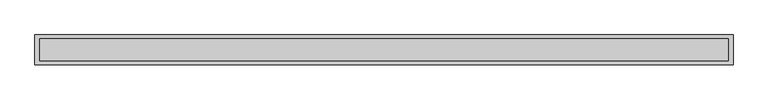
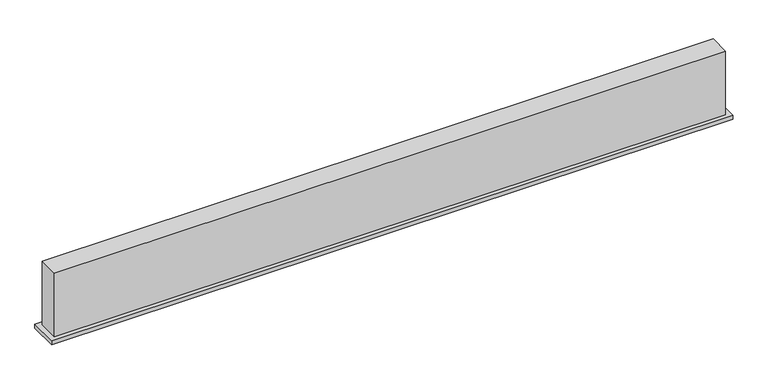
"""IFC4 building model written with IfcOpenShell, lengths in millimetres: air terminal geometry, 033_線状吹出口_BL : BL-S."""

import ifcopenshell
import ifcopenshell.guid

model = None  # the IFC model being written
_history = None  # IfcOwnerHistory: only IFC2X3 demands one
_inside = {}  # id of a spatial element -> (the spatial element, [elements in it])
_under = {}  # id of a project, library or spatial element -> (it, [spatial elements below it])
_declared = {}  # id of a project -> (the project, [libraries it declares])
_typed = {}  # id of a type object -> (the type object, [elements of that type])
_made_of = {}  # id of a material, layer set ... -> (it, [elements and type objects made of it])


def new_model(schema):
    """Start an empty IFC model of exactly this schema.

    Asked for "IFC4X3", IfcOpenShell would pick the latest addendum, in which some entities
    have other attributes; the version numbers below select the first issue.
    IFC2X3 requires an IfcOwnerHistory on every rooted entity: one is made here for all.
    """
    global model, _history
    if schema == "IFC4X3":
        model = ifcopenshell.file(schema_version=(4, 3, 0, 0))
    else:
        model = ifcopenshell.file(schema=schema)
    _inside.clear()
    _under.clear()
    _declared.clear()
    _typed.clear()
    _made_of.clear()
    _history = None
    if model.schema == "IFC2X3":
        org = make("IfcOrganization", Name="unknown")
        user = make(
            "IfcPersonAndOrganization",
            ThePerson=make("IfcPerson", FamilyName="unknown"),
            TheOrganization=org,
        )
        app = make(
            "IfcApplication",
            ApplicationDeveloper=org,
            Version="unknown",
            ApplicationFullName="unknown",
            ApplicationIdentifier="unknown",
        )
        _history = make(
            "IfcOwnerHistory",
            OwningUser=user,
            OwningApplication=app,
            ChangeAction="ADDED",
            CreationDate=0,
        )
    return model


def make(cls, **values):
    """One entity of the class cls with the attributes given. An attribute that is None is left unset."""
    return model.create_entity(
        cls, **{name: value for name, value in values.items() if value is not None}
    )


def rooted(cls, **values):
    """An entity with a GlobalId (a new one), such as an element, a storey or a relation."""
    return make(cls, GlobalId=ifcopenshell.guid.new(), OwnerHistory=_history, **values)


def si_unit(unit_type, name, prefix=None):
    """IfcSIUnit, for example si_unit("LENGTHUNIT", "METRE", prefix="MILLI")."""
    return make("IfcSIUnit", UnitType=unit_type, Prefix=prefix, Name=name)


def assignment(units):
    """IfcUnitAssignment: the units of a project."""
    return None if units is None else make("IfcUnitAssignment", Units=units)


def point(xyz):
    """IfcCartesianPoint."""
    return None if xyz is None else make("IfcCartesianPoint", Coordinates=xyz)


def direction(xyz):
    """IfcDirection."""
    return None if xyz is None else make("IfcDirection", DirectionRatios=xyz)


def frame(location, z_axis=None, x_axis=None):
    """IfcAxis2Placement3D, a coordinate frame: its origin and axes. An axis left out is left unset."""
    return make(
        "IfcAxis2Placement3D",
        Location=point(location),
        Axis=direction(z_axis),
        RefDirection=direction(x_axis),
    )


def origin():
    """The frame at (0, 0, 0) with its axes left unset."""
    return frame((0.0, 0.0, 0.0))


def origin_with_axes():
    """The frame at (0, 0, 0) with the z axis (0, 0, 1) and the x axis (1, 0, 0) written out."""
    return frame((0.0, 0.0, 0.0), z_axis=(0.0, 0.0, 1.0), x_axis=(1.0, 0.0, 0.0))


def place(relative_to, where):
    """IfcLocalPlacement: puts the frame where relative to a parent placement (None: the world)."""
    return make(
        "IfcLocalPlacement", PlacementRelTo=relative_to, RelativePlacement=where
    )


def context(
    kind, dimensions, precision=None, world=None, true_north=None, identifier=None
):
    """IfcGeometricRepresentationContext, for example the 3D "Model" context."""
    return make(
        "IfcGeometricRepresentationContext",
        ContextIdentifier=identifier,
        ContextType=kind,
        CoordinateSpaceDimension=dimensions,
        Precision=precision,
        WorldCoordinateSystem=world,
        TrueNorth=true_north,
    )


def project(units=None, contexts=None):
    """IfcProject with its units and contexts."""
    return rooted(
        "IfcProject",
        Name="project",
        RepresentationContexts=contexts,
        UnitsInContext=assignment(units),
    )


def spatial(cls, under=None, at=None, **own):
    """A site, building, storey or space (cls), placed at a placement, below another one or the project."""
    s = rooted(cls, ObjectPlacement=at, **own)
    if under is not None:
        _under.setdefault(under.id(), (under, []))[1].append(s)
    return s


def polyline(points):
    """IfcPolyline through the points."""
    return make("IfcPolyline", Points=[point(p) for p in points])


def outline(outer, holes=None, kind="AREA"):
    """IfcArbitraryClosedProfileDef: a profile drawn as a closed curve; with holes, ...WithVoids."""
    if holes is None:
        return make("IfcArbitraryClosedProfileDef", ProfileType=kind, OuterCurve=outer)
    return make(
        "IfcArbitraryProfileDefWithVoids",
        ProfileType=kind,
        OuterCurve=outer,
        InnerCurves=holes,
    )


def extrude(swept, where, along, depth):
    """IfcExtrudedAreaSolid: the profile swept, set in the frame where, extruded along a direction by depth."""
    return make(
        "IfcExtrudedAreaSolid",
        SweptArea=swept,
        Position=where,
        ExtrudedDirection=direction(along),
        Depth=depth,
    )


def shape(context_of_items, identifier, shape_type, items):
    """IfcShapeRepresentation: the items that make up one representation, for example the "Body"."""
    return make(
        "IfcShapeRepresentation",
        ContextOfItems=context_of_items,
        RepresentationIdentifier=identifier,
        RepresentationType=shape_type,
        Items=items,
    )


def source(mapping_origin, context_of_items, identifier, shape_type, items):
    """IfcRepresentationMap: a shape defined once, which mapped items show again and again."""
    return make(
        "IfcRepresentationMap",
        MappingOrigin=mapping_origin,
        MappedRepresentation=shape(context_of_items, identifier, shape_type, items),
    )


def transform(
    local_origin,
    x_axis=None,
    y_axis=None,
    z_axis=None,
    scale=None,
    scale2=None,
    scale3=None,
    uniform=True,
):
    """IfcCartesianTransformationOperator3D, or its non-uniform kind. x_axis, y_axis, z_axis: its Axis1, 2, 3."""
    if uniform:
        return make(
            "IfcCartesianTransformationOperator3D",
            Axis1=direction(x_axis),
            Axis2=direction(y_axis),
            LocalOrigin=point(local_origin),
            Scale=scale,
            Axis3=direction(z_axis),
        )
    return make(
        "IfcCartesianTransformationOperator3DnonUniform",
        Axis1=direction(x_axis),
        Axis2=direction(y_axis),
        LocalOrigin=point(local_origin),
        Scale=scale,
        Axis3=direction(z_axis),
        Scale2=scale2,
        Scale3=scale3,
    )


def mapped(mapping_source, mapping_target):
    """IfcMappedItem: shows the shape of a source again, moved by a transform."""
    return make(
        "IfcMappedItem", MappingSource=mapping_source, MappingTarget=mapping_target
    )


def made_of(thing, what):
    """Note that an element or type object is made of a material, layer set ...; save() writes the relation."""
    if what is not None:
        _made_of.setdefault(what.id(), (what, []))[1].append(thing)
    return thing


def element(
    cls,
    number,
    at=None,
    inside=None,
    cuts=None,
    type_object=None,
    material=None,
    context=None,
    identifier="Body",
    shape_type=None,
    held_by="IfcProductDefinitionShape",
    body=None,
    shapes=None,
    **own,
):
    """One element of the class cls, such as IfcWall. Its Tag is "e" and its number.

    at: its placement. inside: the storey or other place that contains it. cuts: it is an
    opening in that element (IfcRelVoidsElement). A single representation is given by context,
    identifier, shape_type and body (its items); several are given by shapes. held_by: the class
    of the entity that holds the representations. save() writes the other relations.
    """
    e = rooted(cls, Tag="e%d" % number, ObjectPlacement=at, **own)
    if body is not None:
        shapes = [shape(context, identifier, shape_type, body)]
    if shapes is not None:
        e.Representation = make(held_by, Representations=shapes)
    if inside is not None:
        _inside.setdefault(inside.id(), (inside, []))[1].append(e)
    if cuts is not None:
        rooted(
            "IfcRelVoidsElement", RelatingBuildingElement=cuts, RelatedOpeningElement=e
        )
    if type_object is not None:
        _typed.setdefault(type_object.id(), (type_object, []))[1].append(e)
    return made_of(e, material)


def aggregate(whole, parts):
    """IfcRelAggregates: a whole, such as a stair, and the parts it consists of."""
    return rooted("IfcRelAggregates", RelatingObject=whole, RelatedObjects=parts)


def save(model, path):
    """Write the relations noted so far, then the file.

    IfcRelAggregates (storeys below a building ...), IfcRelContainedInSpatialStructure (elements
    in a storey), IfcRelDefinesByType, IfcRelAssociatesMaterial and IfcRelDeclares: one each for
    every whole, place, type object, material and project.
    """
    for whole, parts in _under.values():
        aggregate(whole, parts)
    for where, things in _inside.values():
        rooted(
            "IfcRelContainedInSpatialStructure",
            RelatedElements=things,
            RelatingStructure=where,
        )
    for kind, things in _typed.values():
        rooted("IfcRelDefinesByType", RelatedObjects=things, RelatingType=kind)
    for what, things in _made_of.values():
        rooted("IfcRelAssociatesMaterial", RelatedObjects=things, RelatingMaterial=what)
    for by, libraries in _declared.values():
        rooted("IfcRelDeclares", RelatingContext=by, RelatedDefinitions=libraries)
    model.write(path)


def air_terminal_c6619714(model_context):
    return source(origin(), model_context, "Body", "SweptSolid", [
        extrude(outline(polyline([(761.0, -32.5), (-761.0, -32.5), (-761.0, 32.5), (761.0, 32.5), (761.0, -32.5)]), holes=[polyline([(750.0, -24.0), (750.0, 24.0), (-750.0, 24.0), (-750.0, -24.0), (750.0, -24.0)])]), frame((0.0, 0.0, -10.0), z_axis=(0.0, 0.0, 1.0), x_axis=(1.0, 0.0, 0.0)), (0.0, 0.0, 1.0), 10.0),
        extrude(outline(polyline([(750.0, 24.0), (750.0, -24.0), (-750.0, -24.0), (-750.0, 24.0), (750.0, 24.0)])), origin_with_axes(), (0.0, 0.0, 1.0), 150.0),
    ])


if __name__ == "__main__":
    model = new_model("IFC4")
    model_context = context("Model", 3, world=origin())
    ifc_project = project(units=[si_unit("LENGTHUNIT", "METRE", prefix="MILLI")], contexts=[model_context])
    site = spatial("IfcSite", under=ifc_project)
    building = spatial("IfcBuilding", under=site)
    placement = place(None, origin())
    air_terminal_shape = air_terminal_c6619714(model_context)
    element("IfcAirTerminal", 1, ObjectType="033_線状吹出口_BL : BL-S", at=placement, inside=building, context=model_context, shape_type="MappedRepresentation", body=[
        mapped(air_terminal_shape, transform((0.0, 0.0, 0.0), x_axis=(1.0, 0.0, 0.0), y_axis=(0.0, 1.0, 0.0), z_axis=(0.0, 0.0, 1.0))),
    ])
    save(model, "model.ifc")
